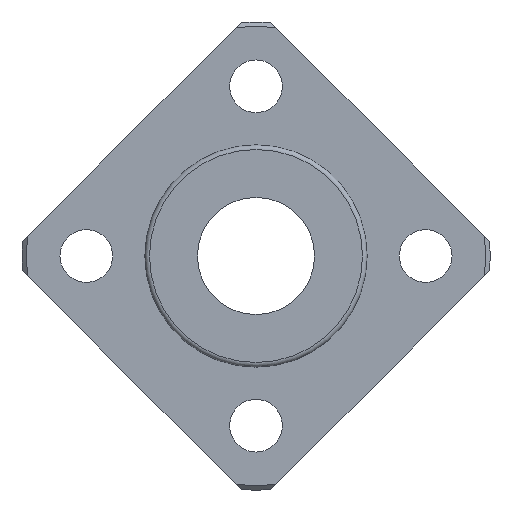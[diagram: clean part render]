
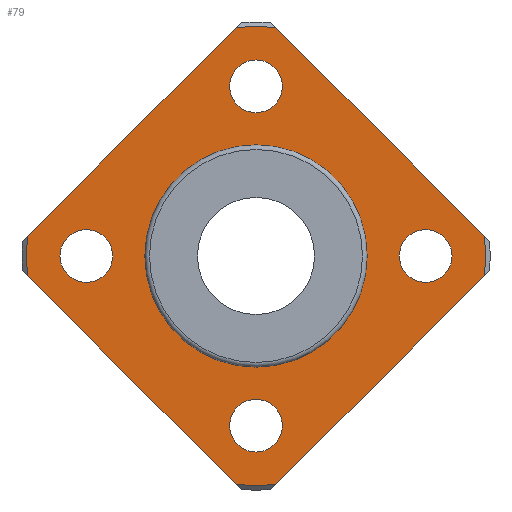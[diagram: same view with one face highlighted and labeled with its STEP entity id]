
A CAD part, left-side view. The second image highlights one B-rep face of the part: STEP entity #79.
In plain terms, the highlighted planar face has unit normal (-1, 0, 0).
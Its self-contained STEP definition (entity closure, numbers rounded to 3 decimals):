
#79=ADVANCED_FACE('',(#125,#126,#127,#128,#129,#130),#131,.T.);
#125=FACE_BOUND('',#240,.T.);
#126=FACE_BOUND('',#241,.T.);
#127=FACE_BOUND('',#242,.T.);
#128=FACE_BOUND('',#243,.T.);
#129=FACE_BOUND('',#244,.T.);
#130=FACE_OUTER_BOUND('',#245,.T.);
#131=PLANE('',#246);
#240=EDGE_LOOP('',(#387));
#241=EDGE_LOOP('',(#388));
#242=EDGE_LOOP('',(#389));
#243=EDGE_LOOP('',(#390));
#244=EDGE_LOOP('',(#391));
#245=EDGE_LOOP('',(#392,#393,#394,#395,#396,#397,#398,#399));
#246=AXIS2_PLACEMENT_3D('',#400,#401,#402);
#387=ORIENTED_EDGE('',*,*,#648,.F.);
#388=ORIENTED_EDGE('',*,*,#649,.T.);
#389=ORIENTED_EDGE('',*,*,#650,.T.);
#390=ORIENTED_EDGE('',*,*,#651,.T.);
#391=ORIENTED_EDGE('',*,*,#652,.T.);
#392=ORIENTED_EDGE('',*,*,#632,.T.);
#393=ORIENTED_EDGE('',*,*,#634,.T.);
#394=ORIENTED_EDGE('',*,*,#653,.T.);
#395=ORIENTED_EDGE('',*,*,#654,.T.);
#396=ORIENTED_EDGE('',*,*,#655,.T.);
#397=ORIENTED_EDGE('',*,*,#622,.T.);
#398=ORIENTED_EDGE('',*,*,#656,.T.);
#399=ORIENTED_EDGE('',*,*,#641,.T.);
#400=CARTESIAN_POINT('',(-6.0,14.425,0.0));
#401=DIRECTION('',(-1.0,0.0,0.));
#402=DIRECTION('',(0.,0.0,1.0));
#622=EDGE_CURVE('',#698,#699,#700,.T.);
#632=EDGE_CURVE('',#719,#717,#720,.T.);
#634=EDGE_CURVE('',#717,#722,#723,.T.);
#641=EDGE_CURVE('',#735,#719,#736,.T.);
#648=EDGE_CURVE('',#748,#748,#749,.T.);
#649=EDGE_CURVE('',#750,#750,#751,.T.);
#650=EDGE_CURVE('',#752,#752,#753,.T.);
#651=EDGE_CURVE('',#754,#754,#755,.T.);
#652=EDGE_CURVE('',#756,#756,#757,.T.);
#653=EDGE_CURVE('',#722,#758,#759,.T.);
#654=EDGE_CURVE('',#758,#760,#761,.T.);
#655=EDGE_CURVE('',#760,#698,#762,.T.);
#656=EDGE_CURVE('',#699,#735,#763,.T.);
#698=VERTEX_POINT('',#834);
#699=VERTEX_POINT('',#835);
#700=LINE('',#836,#837);
#717=VERTEX_POINT('',#869);
#719=VERTEX_POINT('',#874);
#720=CIRCLE('',#875,19.6);
#722=VERTEX_POINT('',#880);
#723=LINE('',#881,#882);
#735=VERTEX_POINT('',#906);
#736=LINE('',#907,#908);
#748=VERTEX_POINT('',#932);
#749=CIRCLE('',#933,9.25);
#750=VERTEX_POINT('',#934);
#751=CIRCLE('',#935,2.25);
#752=VERTEX_POINT('',#936);
#753=CIRCLE('',#937,2.25);
#754=VERTEX_POINT('',#938);
#755=CIRCLE('',#939,2.25);
#756=VERTEX_POINT('',#940);
#757=CIRCLE('',#941,2.25);
#758=VERTEX_POINT('',#942);
#759=CIRCLE('',#943,19.6);
#760=VERTEX_POINT('',#944);
#761=LINE('',#945,#946);
#762=CIRCLE('',#947,19.6);
#763=CIRCLE('',#948,19.6);
#834=CARTESIAN_POINT('',(-6.0,-19.527,1.686));
#835=CARTESIAN_POINT('',(-6.0,-1.686,19.527));
#836=CARTESIAN_POINT('',(-6.0,-3.394,17.819));
#837=VECTOR('',#1034,1.0);
#869=CARTESIAN_POINT('',(-6.0,19.527,-1.686));
#874=CARTESIAN_POINT('',(-6.0,19.527,1.686));
#875=AXIS2_PLACEMENT_3D('',#1041,#1042,#1043);
#880=CARTESIAN_POINT('',(-6.0,1.686,-19.527));
#881=CARTESIAN_POINT('',(-6.0,17.819,-3.394));
#882=VECTOR('',#1044,1.0);
#906=CARTESIAN_POINT('',(-6.0,1.686,19.527));
#907=CARTESIAN_POINT('',(-6.0,17.819,3.394));
#908=VECTOR('',#1048,1.0);
#932=CARTESIAN_POINT('',(-6.0,9.25,0.0));
#933=AXIS2_PLACEMENT_3D('',#1052,#1053,#1054);
#934=CARTESIAN_POINT('',(-6.0,14.5,2.25));
#935=AXIS2_PLACEMENT_3D('',#1055,#1056,#1057);
#936=CARTESIAN_POINT('',(-6.0,-14.5,2.25));
#937=AXIS2_PLACEMENT_3D('',#1058,#1059,#1060);
#938=CARTESIAN_POINT('',(-6.0,0.0,16.75));
#939=AXIS2_PLACEMENT_3D('',#1061,#1062,#1063);
#940=CARTESIAN_POINT('',(-6.,0.0,-12.25));
#941=AXIS2_PLACEMENT_3D('',#1064,#1065,#1066);
#942=CARTESIAN_POINT('',(-6.0,-1.686,-19.527));
#943=AXIS2_PLACEMENT_3D('',#1067,#1068,#1069);
#944=CARTESIAN_POINT('',(-6.0,-19.527,-1.686));
#945=CARTESIAN_POINT('',(-6.0,-3.394,-17.819));
#946=VECTOR('',#1070,1.0);
#947=AXIS2_PLACEMENT_3D('',#1071,#1072,#1073);
#948=AXIS2_PLACEMENT_3D('',#1074,#1075,#1076);
#1034=DIRECTION('',(0.,0.707,0.707));
#1041=CARTESIAN_POINT('',(-6.0,0.0,0.0));
#1042=DIRECTION('',(-1.0,0.0,0.));
#1043=DIRECTION('',(0.0,1.0,0.0));
#1044=DIRECTION('',(0.,-0.707,-0.707));
#1048=DIRECTION('',(0.,0.707,-0.707));
#1052=CARTESIAN_POINT('',(-6.0,0.0,0.0));
#1053=DIRECTION('',(-1.0,0.0,0.));
#1054=DIRECTION('',(0.0,1.0,0.0));
#1055=CARTESIAN_POINT('',(-6.0,14.5,0.0));
#1056=DIRECTION('',(1.0,0.0,0.));
#1057=DIRECTION('',(0.,0.0,-1.0));
#1058=CARTESIAN_POINT('',(-6.0,-14.5,0.0));
#1059=DIRECTION('',(1.0,0.0,0.));
#1060=DIRECTION('',(0.,0.0,-1.0));
#1061=CARTESIAN_POINT('',(-6.0,0.0,14.5));
#1062=DIRECTION('',(1.0,0.0,0.));
#1063=DIRECTION('',(0.,0.0,-1.0));
#1064=CARTESIAN_POINT('',(-6.,0.0,-14.5));
#1065=DIRECTION('',(1.0,0.0,0.));
#1066=DIRECTION('',(0.,0.0,-1.0));
#1067=CARTESIAN_POINT('',(-6.0,0.0,0.0));
#1068=DIRECTION('',(-1.0,0.0,0.));
#1069=DIRECTION('',(0.0,1.0,0.0));
#1070=DIRECTION('',(0.,-0.707,0.707));
#1071=CARTESIAN_POINT('',(-6.0,0.0,0.0));
#1072=DIRECTION('',(-1.0,0.0,0.));
#1073=DIRECTION('',(0.0,1.0,0.0));
#1074=CARTESIAN_POINT('',(-6.0,0.0,0.0));
#1075=DIRECTION('',(-1.0,0.0,0.));
#1076=DIRECTION('',(0.0,1.0,0.0));
